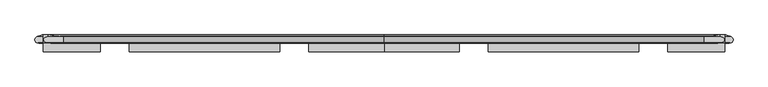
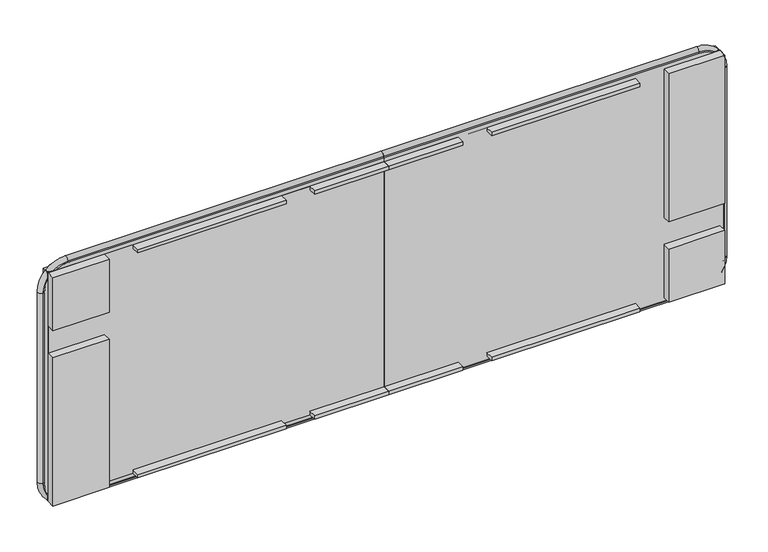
"""IFC4 building model written with IfcOpenShell, lengths in millimetres: proxy geometry, CAMBRIDGE^TABLE 4_54144 2 PC-PARTS SOLID."""

from ifc_helpers import new_model, si_unit, point, frame, origin, place, context, project, spatial, polyline, circle_curve, ellipse_curve, trimmed, outline, extrude, source, transform, mapped, element, save
from ifc_brep_helpers import plane_surface, cylinder_surface, revolved_surface, advanced_brep


def generic_models_56c868ac(model_context):
    return source(origin(), model_context, "Body", "SolidModel", [
        extrude(outline(polyline([(1282.7, -12.7), (1282.7, -57.15), (495.3, -57.15), (495.3, -12.7), (1282.7, -12.7)])), frame((0.0, 0.0, -63.5), z_axis=(0.0, 0.0, 1.0), x_axis=(1.0, 0.0, 0.0)), (0.0, 0.0, 1.0), 19.05),
        extrude(outline(polyline([(44.45, -57.15), (44.45, -12.7), (342.9, -12.7), (342.9, -57.15), (44.45, -57.15)])), frame((0.0, 0.0, -1327.15), z_axis=(0.0, 0.0, 1.0), x_axis=(1.0, 0.0, 0.0)), (0.0, 0.0, 1.0), 831.85),
        extrude(outline(polyline([(44.45, -12.7), (342.9, -12.7), (342.9, -57.15), (44.45, -57.15), (44.45, -12.7)])), frame((0.0, 0.0, -342.9), z_axis=(0.0, 0.0, 1.0), x_axis=(1.0, 0.0, 0.0)), (0.0, 0.0, 1.0), 298.45),
        extrude(outline(polyline([(1435.1, -57.15), (1435.1, -12.7), (1828.8, -12.7), (1828.8, -57.15), (1435.1, -57.15)])), frame((0.0, 0.0, -63.5), z_axis=(0.0, 0.0, 1.0), x_axis=(1.0, 0.0, 0.0)), (0.0, 0.0, 1.0), 19.05),
        extrude(outline(polyline([(1435.1, -57.15), (1435.1, -12.7), (1828.8, -12.7), (1828.8, -57.15), (1435.1, -57.15)])), frame((0.0, 0.0, -1327.15), z_axis=(0.0, 0.0, 1.0), x_axis=(1.0, 0.0, 0.0)), (0.0, 0.0, 1.0), 19.05),
        extrude(outline(polyline([(1282.7, -12.7), (1282.7, -57.15), (495.3, -57.15), (495.3, -12.7), (1282.7, -12.7)])), frame((0.0, 0.0, -1327.15), z_axis=(0.0, 0.0, 1.0), x_axis=(1.0, 0.0, 0.0)), (0.0, 0.0, 1.0), 19.05),
        advanced_brep(
        [(1828.8, -12.7, -22.9617613), (1828.8, -12.7, -1348.6382387), (3505.2, -12.7, -1348.6382387), (3634.6382387, -12.7, -1219.2), (3634.6382387, -12.7, -152.4), (3505.2, -12.7, -22.9617613), (1828.8, 31.75, -1333.7609266), (1828.8, 31.75, -37.8390734), (3579.4621688, 31.75, -37.8390734), (3619.7609266, 31.75, -78.1378312), (3619.7609266, 31.75, -1293.4621688), (3579.4621688, 31.75, -1333.7609266), (3505.2, 23.7557311, -1355.725), (1828.8, 23.7557311, -1355.725), (3641.725, 23.7557311, -1219.2), (3641.725, 22.1682311, -1219.2), (3505.2, 22.1682311, -1355.725), (3641.725, 23.7557311, -152.4), (3505.2, 23.7557311, -15.875), (3505.2, 22.1682311, -15.875), (3641.725, 22.1682311, -152.4), (1828.8, 23.7557311, -15.875), (1828.8, 22.1682311, -1355.725), (1828.8, -9.5412197, -1354.5910714), (3505.2, -9.5412197, -1354.5910714), (3640.5910714, -9.5412197, -152.4), (3505.2, -9.5412197, -17.0089286), (3640.5910714, -9.5412197, -1219.2), (1828.8, 22.1682311, -15.875), (1828.8, -9.5412197, -17.0089286)],
        [
            (0, 1),
            (1, 2),
            (2, 3, circle_curve(frame((3505.2, -12.7, -1219.2), z_axis=(0.0, -1.0, 0.0), x_axis=(0.0, 0.0, -1.0)), 129.4382387)),
            (3, 4),
            (4, 5, circle_curve(frame((3505.2, -12.7, -152.4), z_axis=(0.0, -1.0, 0.0), x_axis=(1.0, 0.0, 0.0)), 129.4382387)),
            (5, 0),
            (6, 7),
            (7, 8),
            (8, 9, circle_curve(frame((3505.2, 31.75, -152.4), z_axis=(0.0, 1.0, 0.0), x_axis=(0.0, 0.0, -1.0)), 136.525)),
            (9, 10),
            (10, 11, circle_curve(frame((3505.2, 31.75, -1219.2), z_axis=(0.0, 1.0, 0.0), x_axis=(-1.0, 0.0, 0.0)), 136.525)),
            (11, 6),
            (11, 12, ellipse_curve(frame((3505.2, 73.4467673, -1219.2), z_axis=(0.0, 0.9396926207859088, -0.3420201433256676), x_axis=(0.0, -0.3420201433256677, -0.9396926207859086)), 145.2868704, 136.525)),
            (12, 13),
            (13, 6),
            (10, 14, ellipse_curve(frame((3505.2, 73.4467673, -1219.2), z_axis=(-0.3420201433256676, -0.9396926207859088, 0.0), x_axis=(0.9396926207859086, -0.3420201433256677, 0.0)), 145.2868704, 136.525)),
            (14, 15),
            (15, 16, circle_curve(frame((3505.2, 22.1682311, -1219.2), z_axis=(0.0, 1.0, 0.0), x_axis=(-1.0, 0.0, 0.0)), 136.525)),
            (16, 12),
            (9, 17, ellipse_curve(frame((3505.2, 73.4467673, -152.4), z_axis=(0.3420201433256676, 0.9396926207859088, 0.0), x_axis=(0.9396926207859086, -0.3420201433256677, 0.0)), 145.2868704, 136.525)),
            (17, 14),
            (8, 18, ellipse_curve(frame((3505.2, 73.4467673, -152.4), z_axis=(0.0, -0.9396926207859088, -0.3420201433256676), x_axis=(0.0, -0.3420201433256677, 0.9396926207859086)), 145.2868704, 136.525)),
            (18, 19),
            (19, 20, circle_curve(frame((3505.2, 22.1682311, -152.4), z_axis=(0.0, 1.0, 0.0), x_axis=(0.0, 0.0, -1.0)), 136.525)),
            (20, 17),
            (7, 21),
            (21, 18),
            (22, 13),
            (16, 22),
            (23, 22, circle_curve(frame((1828.8, 6.2932311, -1355.725), z_axis=(1.0, 0.0, 0.0), x_axis=(0.0, -1.0, 0.0)), 15.875)),
            (16, 24, circle_curve(frame((3505.2, 6.2932311, -1355.725), z_axis=(-1.0, 0.0, 0.0), x_axis=(0.0, -1.0, 0.0)), 15.875)),
            (24, 23),
            (1, 23, circle_curve(frame((1828.8, -15.875, -1354.1375), z_axis=(-1.0, 0.0, 0.0), x_axis=(0.0, 0.4999999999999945, 0.8660254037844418)), 6.35)),
            (24, 2, circle_curve(frame((3505.2, -15.875, -1354.1375), z_axis=(1.0, 0.0, 0.0), x_axis=(0.0, 0.4999999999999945, 0.8660254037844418)), 6.35)),
            (25, 20, circle_curve(frame((3641.725, 6.2932311, -152.4), z_axis=(0.0, 0.0, 1.0), x_axis=(1.0, 0.0, 0.0)), 15.875)),
            (19, 26, circle_curve(frame((3505.2, 6.2932311, -15.875), z_axis=(1.0, 0.0, 0.0), x_axis=(0.0, 0.0, 1.0)), 15.875)),
            (26, 25, circle_curve(frame((3505.2, -9.5412197, -152.4), z_axis=(0.0, 1.0, 0.0), x_axis=(1.0, 0.0, 0.0)), 135.3910714)),
            (27, 15, circle_curve(frame((3641.725, 6.2932311, -1219.2), z_axis=(0.0, 0.0, 1.0), x_axis=(0.0, -1.0, 0.0)), 15.875)),
            (15, 20),
            (25, 27),
            (27, 24, circle_curve(frame((3505.2, -9.5412197, -1219.2), z_axis=(0.0, 1.0, 0.0), x_axis=(0.0, 0.0, -1.0)), 135.3910714)),
            (28, 29, circle_curve(frame((1828.8, 6.2932311, -15.875), z_axis=(1.0, 0.0, 0.0), x_axis=(0.0, -1.0, 0.0)), 15.875)),
            (29, 26),
            (19, 28),
            (21, 28),
            (4, 25, circle_curve(frame((3640.1375, -15.875, -152.4), z_axis=(0.0, 0.0, -1.0), x_axis=(1.0, 0.0, 0.0)), 6.35)),
            (26, 5, circle_curve(frame((3505.2, -15.875, -17.4625), z_axis=(-1.0, 0.0, 0.0), x_axis=(0.0, 0.0, 1.0)), 6.35)),
            (3, 27, circle_curve(frame((3640.1375, -15.875, -1219.2), z_axis=(0.0, 0.0, -1.0), x_axis=(-0.8660254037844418, 0.4999999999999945, 0.0)), 6.35)),
            (29, 0, circle_curve(frame((1828.8, -15.875, -17.4625), z_axis=(-1.0, 0.0, 0.0), x_axis=(0.0, 0.4999999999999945, -0.8660254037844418)), 6.35)),
        ],
        [
            plane_surface(frame((2743.2, -12.7, -685.8), z_axis=(0.0, -1.0, 0.0), x_axis=(0.0, 0.0, 1.0))),
            plane_surface(frame((2743.2, 31.75, -685.8), z_axis=(0.0, 1.0, 0.0), x_axis=(0.0, 0.0, 1.0))),
            plane_surface(frame((152.4, 29.1686338, -1340.8531721), z_axis=(0.0, 0.9396926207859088, -0.3420201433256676), x_axis=(0.0, -0.3420201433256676, -0.9396926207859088))),
            cylinder_surface(frame((3505.2, 22.9619811, -1219.2), z_axis=(0.0, -1.0, 0.0), x_axis=(-1.0, 0.0, 0.0)), 136.525),
            plane_surface(frame((3626.8531721, 29.1686338, -1219.2), z_axis=(0.3420201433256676, 0.9396926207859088, 0.0), x_axis=(0.9396926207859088, -0.3420201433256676, 0.0))),
            cylinder_surface(frame((3505.2, 22.9619811, -152.4), z_axis=(0.0, -1.0, 0.0), x_axis=(0.0, 0.0, -1.0)), 136.525),
            plane_surface(frame((1828.8, 29.1686338, -30.7468279), z_axis=(0.0, 0.9396926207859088, 0.3420201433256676), x_axis=(0.0, -0.3420201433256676, 0.9396926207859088))),
            plane_surface(frame((152.4, 23.7557311, -1355.725), z_axis=(0.0, 0.0, -1.0), x_axis=(0.0, -1.0, 0.0))),
            cylinder_surface(frame((152.4, 6.2932311, -1355.725), z_axis=(1.0, 0.0, 0.0), x_axis=(0.0, -1.0, 0.0)), 15.875),
            revolved_surface(polyline([(3505.2, -12.700000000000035, -1348.6382386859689), (1828.8, -12.700000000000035, -1348.6382386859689)]), (152.4, -15.875, -1354.1375), (1.0, 0.0, 0.0)),
            revolved_surface(trimmed(ellipse_curve(frame((3641.725, 6.2932311, -152.4), z_axis=(0.0, 0.0, -1.0), x_axis=(1.0, 0.0, 0.0)), 15.875, 15.875), [point((3641.725, 22.1682311, -152.4))], [point((3640.5910714, -9.5412197, -152.4))], True, "CARTESIAN"), (3505.2, 6.2932311, -152.4), (0.0, -1.0, 0.0)),
            cylinder_surface(frame((3641.725, 6.2932311, -1219.2), z_axis=(0.0, 0.0, 1.0), x_axis=(0.0, -1.0, 0.0)), 15.875),
            plane_surface(frame((3641.725, 23.7557311, -1219.2), z_axis=(1.0, 0.0, 0.0), x_axis=(0.0, -1.0, 0.0))),
            revolved_surface(trimmed(ellipse_curve(frame((3505.2, 6.2932311, -1355.725), z_axis=(-1.0, 0.0, 0.0), x_axis=(0.0, 0.0, -1.0)), 15.875, 15.875), [point((3505.2, 22.1682311, -1355.725))], [point((3505.2, -9.5412197, -1354.5910714))], True, "CARTESIAN"), (3505.2, 6.2932311, -1219.2), (0.0, -1.0, 0.0)),
            cylinder_surface(frame((1828.8, 6.2932311, -15.875), z_axis=(-1.0, 0.0, 0.0), x_axis=(0.0, -1.0, 0.0)), 15.875),
            plane_surface(frame((1828.8, 23.7557311, -15.875), z_axis=(0.0, 0.0, 1.0), x_axis=(0.0, -1.0, 0.0))),
            revolved_surface(trimmed(ellipse_curve(frame((3640.1375, -15.875, -152.4), z_axis=(0.0, 0.0, 1.0), x_axis=(1.0, 0.0, 0.0)), 6.35, 6.35), [point((3640.5910714, -9.5412197, -152.4))], [point((3634.6382387, -12.7, -152.4))], True, "CARTESIAN"), (3505.2, -15.875, -152.4), (0.0, -1.0, 0.0)),
            revolved_surface(polyline([(3634.6382386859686, -12.700000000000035, -152.4000000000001), (3634.6382386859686, -12.700000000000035, -1219.2)]), (3640.1375, -15.875, -1219.2), (0.0, 0.0, 1.0)),
            revolved_surface(trimmed(ellipse_curve(frame((3505.2, -15.875, -1354.1375), z_axis=(1.0, 0.0, 0.0), x_axis=(0.0, 0.0, -1.0)), 6.35, 6.35), [point((3505.2, -9.5412197, -1354.5910714))], [point((3505.2, -12.7, -1348.6382387))], True, "CARTESIAN"), (3505.2, -15.875, -1219.2), (0.0, -1.0, 0.0)),
            revolved_surface(polyline([(1828.8, -12.700000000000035, -22.961761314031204), (3505.2, -12.700000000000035, -22.961761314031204)]), (1828.8, -15.875, -17.4625), (-1.0, 0.0, 0.0)),
            plane_surface(frame((1828.8, 0.0, -44.45), z_axis=(-1.0, 0.0, 0.0), x_axis=(0.0, 0.0, 1.0))),
        ],
        [
            (0, [[1, 2, 3, 4, 5, 6]]),
            (1, [[7, 8, 9, 10, 11, 12]]),
            (2, [[13, 14, 15, -12]]),
            (3, [[-13, -11, 16, 17, 18, 19]]),
            (4, [[-16, -10, 20, 21]]),
            (5, [[-20, -9, 22, 23, 24, 25]]),
            (6, [[-22, -8, 26, 27]]),
            (7, [[28, -14, -19, 29]]),
            (8, [[30, -29, 31, 32]]),
            (9, [[33, -32, 34, -2]]),
            (10, [[35, -24, 36, 37]]),
            (11, [[38, 39, -35, 40]]),
            (12, [[-17, -21, -25, -39]]),
            (13, [[-31, -18, -38, 41]]),
            (14, [[42, 43, -36, 44]]),
            (15, [[45, -44, -23, -27]]),
            (16, [[46, -37, 47, -5]]),
            (17, [[48, -40, -46, -4]]),
            (18, [[-34, -41, -48, -3]]),
            (19, [[49, -6, -47, -43]]),
            (20, [[-26, -7, -15, -28, -30, -33, -1, -49, -42, -45]]),
        ],
    ),
        extrude(outline(polyline([(2222.5, -12.7), (2222.5, -57.15), (1828.8, -57.15), (1828.8, -12.7), (2222.5, -12.7)])), frame((0.0, 0.0, -1327.15), z_axis=(0.0, 0.0, 1.0), x_axis=(1.0, 0.0, 0.0)), (0.0, 0.0, 1.0), 19.05),
        extrude(outline(polyline([(3314.7, -12.7), (3613.15, -12.7), (3613.15, -57.15), (3314.7, -57.15), (3314.7, -12.7)])), frame((0.0, 0.0, -876.3), z_axis=(0.0, 0.0, 1.0), x_axis=(1.0, 0.0, 0.0)), (0.0, 0.0, 1.0), 831.85),
        extrude(outline(polyline([(3613.15, -57.15), (3314.7, -57.15), (3314.7, -12.7), (3613.15, -12.7), (3613.15, -57.15)])), frame((0.0, 0.0, -1327.15), z_axis=(0.0, 0.0, 1.0), x_axis=(1.0, 0.0, 0.0)), (0.0, 0.0, 1.0), 298.45),
        extrude(outline(polyline([(2222.5, -12.7), (2222.5, -57.15), (1828.8, -57.15), (1828.8, -12.7), (2222.5, -12.7)])), frame((0.0, 0.0, -63.5), z_axis=(0.0, 0.0, 1.0), x_axis=(1.0, 0.0, 0.0)), (0.0, 0.0, 1.0), 19.05),
        extrude(outline(polyline([(2374.9, -57.15), (2374.9, -12.7), (3162.3, -12.7), (3162.3, -57.15), (2374.9, -57.15)])), frame((0.0, 0.0, -63.5), z_axis=(0.0, 0.0, 1.0), x_axis=(1.0, 0.0, 0.0)), (0.0, 0.0, 1.0), 19.05),
        extrude(outline(polyline([(2374.9, -57.15), (2374.9, -12.7), (3162.3, -12.7), (3162.3, -57.15), (2374.9, -57.15)])), frame((0.0, 0.0, -1327.15), z_axis=(0.0, 0.0, 1.0), x_axis=(1.0, 0.0, 0.0)), (0.0, 0.0, 1.0), 19.05),
        extrude(outline(polyline([(44.45, -12.7), (44.45, 0.0), (1828.8, 0.0), (1828.8, -12.7), (44.45, -12.7)])), frame((0.0, 0.0, -1327.15), z_axis=(0.0, 0.0, 1.0), x_axis=(1.0, 0.0, 0.0)), (0.0, 0.0, 1.0), 1282.7),
        advanced_brep(
        [(1828.8, -12.7, -1348.6382387), (1828.8, -12.7, -22.9617613), (152.4, -12.7, -22.9617613), (22.9617613, -12.7, -152.4), (22.9617613, -12.7, -1219.2), (152.4, -12.7, -1348.6382387), (1828.8, 31.75, -37.8390734), (1828.8, 31.75, -1333.7609266), (78.1378312, 31.75, -1333.7609266), (37.8390734, 31.75, -1293.4621688), (37.8390734, 31.75, -78.1378312), (78.1378312, 31.75, -37.8390734), (152.4, 23.7557311, -15.875), (1828.8, 23.7557311, -15.875), (15.875, 23.7557311, -152.4), (15.875, 22.1682311, -152.4), (152.4, 22.1682311, -15.875), (15.875, 23.7557311, -1219.2), (152.4, 23.7557311, -1355.725), (152.4, 22.1682311, -1355.725), (15.875, 22.1682311, -1219.2), (1828.8, 23.7557311, -1355.725), (1828.8, 22.1682311, -15.875), (1828.8, -9.5412197, -17.0089286), (152.4, -9.5412197, -17.0089286), (1828.8, 22.1682311, -1355.725), (1828.8, -9.5412197, -1354.5910714), (152.4, -9.5412197, -1354.5910714), (17.0089286, -9.5412197, -1219.2), (17.0089286, -9.5412197, -152.4)],
        [
            (0, 1),
            (1, 2),
            (2, 3, circle_curve(frame((152.4, -12.7, -152.4), z_axis=(0.0, -1.0, 0.0), x_axis=(0.0, 0.0, 1.0)), 129.4382387)),
            (3, 4),
            (4, 5, circle_curve(frame((152.4, -12.7, -1219.2), z_axis=(0.0, -1.0, 0.0), x_axis=(-1.0, 0.0, 0.0)), 129.4382387)),
            (5, 0),
            (6, 7),
            (7, 8),
            (8, 9, circle_curve(frame((152.4, 31.75, -1219.2), z_axis=(0.0, 1.0, 0.0), x_axis=(0.0, 0.0, 1.0)), 136.525)),
            (9, 10),
            (10, 11, circle_curve(frame((152.4, 31.75, -152.4), z_axis=(0.0, 1.0, 0.0), x_axis=(1.0, 0.0, 0.0)), 136.525)),
            (11, 6),
            (11, 12, ellipse_curve(frame((152.4, 73.4467673, -152.4), z_axis=(0.0, 0.9396926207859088, 0.3420201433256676), x_axis=(0.0, -0.3420201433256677, 0.9396926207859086)), 145.2868704, 136.525)),
            (12, 13),
            (13, 6),
            (10, 14, ellipse_curve(frame((152.4, 73.4467673, -152.4), z_axis=(0.3420201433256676, -0.9396926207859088, 0.0), x_axis=(-0.9396926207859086, -0.3420201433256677, 0.0)), 145.2868704, 136.525)),
            (14, 15),
            (15, 16, circle_curve(frame((152.4, 22.1682311, -152.4), z_axis=(0.0, 1.0, 0.0), x_axis=(1.0, 0.0, 0.0)), 136.525)),
            (16, 12),
            (9, 17, ellipse_curve(frame((152.4, 73.4467673, -1219.2), z_axis=(-0.3420201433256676, 0.9396926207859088, 0.0), x_axis=(-0.9396926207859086, -0.3420201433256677, 0.0)), 145.2868704, 136.525)),
            (17, 14),
            (8, 18, ellipse_curve(frame((152.4, 73.4467673, -1219.2), z_axis=(0.0, -0.9396926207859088, 0.3420201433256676), x_axis=(0.0, -0.3420201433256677, -0.9396926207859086)), 145.2868704, 136.525)),
            (18, 19),
            (19, 20, circle_curve(frame((152.4, 22.1682311, -1219.2), z_axis=(0.0, 1.0, 0.0), x_axis=(0.0, 0.0, 1.0)), 136.525)),
            (20, 17),
            (7, 21),
            (21, 18),
            (22, 13),
            (16, 22),
            (23, 22, circle_curve(frame((1828.8, 6.2932311, -15.875), z_axis=(-1.0, 0.0, 0.0), x_axis=(0.0, -1.0, 0.0)), 15.875)),
            (16, 24, circle_curve(frame((152.4, 6.2932311, -15.875), z_axis=(1.0, 0.0, 0.0), x_axis=(0.0, -1.0, 0.0)), 15.875)),
            (24, 23),
            (1, 23, circle_curve(frame((1828.8, -15.875, -17.4625), z_axis=(1.0, 0.0, 0.0), x_axis=(0.0, 0.4999999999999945, -0.8660254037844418)), 6.35)),
            (24, 2, circle_curve(frame((152.4, -15.875, -17.4625), z_axis=(-1.0, 0.0, 0.0), x_axis=(0.0, 0.4999999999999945, -0.8660254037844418)), 6.35)),
            (25, 26, circle_curve(frame((1828.8, 6.2932311, -1355.725), z_axis=(-1.0, 0.0, 0.0), x_axis=(0.0, -1.0, 0.0)), 15.875)),
            (26, 27),
            (27, 19, circle_curve(frame((152.4, 6.2932311, -1355.725), z_axis=(1.0, 0.0, 0.0), x_axis=(0.0, -1.0, 0.0)), 15.875)),
            (19, 25),
            (21, 25),
            (28, 20, circle_curve(frame((15.875, 6.2932311, -1219.2), z_axis=(0.0, 0.0, -1.0), x_axis=(-1.0, 0.0, 0.0)), 15.875)),
            (27, 28, circle_curve(frame((152.4, -9.5412197, -1219.2), z_axis=(0.0, 1.0, 0.0), x_axis=(-1.0, 0.0, 0.0)), 135.3910714)),
            (29, 15, circle_curve(frame((15.875, 6.2932311, -152.4), z_axis=(0.0, 0.0, -1.0), x_axis=(0.0, -1.0, 0.0)), 15.875)),
            (15, 20),
            (28, 29),
            (29, 24, circle_curve(frame((152.4, -9.5412197, -152.4), z_axis=(0.0, 1.0, 0.0), x_axis=(0.0, 0.0, 1.0)), 135.3910714)),
            (26, 0, circle_curve(frame((1828.8, -15.875, -1354.1375), z_axis=(1.0, 0.0, 0.0), x_axis=(0.0, 0.4999999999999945, 0.8660254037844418)), 6.35)),
            (5, 27, circle_curve(frame((152.4, -15.875, -1354.1375), z_axis=(-1.0, 0.0, 0.0), x_axis=(0.0, 0.4999999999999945, 0.8660254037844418)), 6.35)),
            (4, 28, circle_curve(frame((17.4625, -15.875, -1219.2), z_axis=(0.0, 0.0, 1.0), x_axis=(-1.0, 0.0, 0.0)), 6.35)),
            (3, 29, circle_curve(frame((17.4625, -15.875, -152.4), z_axis=(0.0, 0.0, 1.0), x_axis=(0.8660254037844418, 0.4999999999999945, 0.0)), 6.35)),
        ],
        [
            plane_surface(frame((914.4, -12.7, -685.8), z_axis=(0.0, -1.0, 0.0), x_axis=(0.0, 0.0, 1.0))),
            plane_surface(frame((914.4, 31.75, -685.8), z_axis=(0.0, 1.0, 0.0), x_axis=(0.0, 0.0, 1.0))),
            plane_surface(frame((1828.8, 29.1686338, -30.7468279), z_axis=(0.0, 0.9396926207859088, 0.3420201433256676), x_axis=(0.0, -0.3420201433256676, 0.9396926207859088))),
            cylinder_surface(frame((152.4, 22.9619811, -152.4), z_axis=(0.0, -1.0, 0.0), x_axis=(1.0, 0.0, 0.0)), 136.525),
            plane_surface(frame((30.7468279, 29.1686338, -152.4), z_axis=(-0.3420201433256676, 0.9396926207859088, 0.0), x_axis=(-0.9396926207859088, -0.3420201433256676, 0.0))),
            cylinder_surface(frame((152.4, 22.9619811, -1219.2), z_axis=(0.0, -1.0, 0.0), x_axis=(0.0, 0.0, 1.0)), 136.525),
            plane_surface(frame((152.4, 29.1686338, -1340.8531721), z_axis=(0.0, 0.9396926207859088, -0.3420201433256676), x_axis=(0.0, -0.3420201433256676, -0.9396926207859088))),
            plane_surface(frame((1828.8, 23.7557311, -15.875), z_axis=(0.0, 0.0, 1.0), x_axis=(0.0, -1.0, 0.0))),
            cylinder_surface(frame((1828.8, 6.2932311, -15.875), z_axis=(-1.0, 0.0, 0.0), x_axis=(0.0, -1.0, 0.0)), 15.875),
            revolved_surface(polyline([(152.4000000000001, -12.700000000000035, -22.961761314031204), (1828.8, -12.700000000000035, -22.961761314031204)]), (1828.8, -15.875, -17.4625), (-1.0, 0.0, 0.0)),
            cylinder_surface(frame((152.4, 6.2932311, -1355.725), z_axis=(1.0, 0.0, 0.0), x_axis=(0.0, -1.0, 0.0)), 15.875),
            plane_surface(frame((152.4, 23.7557311, -1355.725), z_axis=(0.0, 0.0, -1.0), x_axis=(0.0, -1.0, 0.0))),
            revolved_surface(trimmed(ellipse_curve(frame((15.875, 6.2932311, -1219.2), z_axis=(0.0, 0.0, 1.0), x_axis=(-1.0, 0.0, 0.0)), 15.875, 15.875), [point((15.875, 22.1682311, -1219.2))], [point((17.0089286, -9.5412197, -1219.2))], True, "CARTESIAN"), (152.4, 6.2932311, -1219.2), (0.0, -1.0, 0.0)),
            cylinder_surface(frame((15.875, 6.2932311, -152.4), z_axis=(0.0, 0.0, -1.0), x_axis=(0.0, -1.0, 0.0)), 15.875),
            plane_surface(frame((15.875, 23.7557311, -152.4), z_axis=(-1.0, 0.0, 0.0), x_axis=(0.0, -1.0, 0.0))),
            revolved_surface(trimmed(ellipse_curve(frame((152.4, 6.2932311, -15.875), z_axis=(1.0, 0.0, 0.0), x_axis=(0.0, 0.0, 1.0)), 15.875, 15.875), [point((152.4, 22.1682311, -15.875))], [point((152.4, -9.5412197, -17.0089286))], True, "CARTESIAN"), (152.4, 6.2932311, -152.4), (0.0, -1.0, 0.0)),
            revolved_surface(polyline([(1828.8, -12.700000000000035, -1348.6382386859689), (152.4, -12.700000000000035, -1348.6382386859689)]), (152.4, -15.875, -1354.1375), (1.0, 0.0, 0.0)),
            revolved_surface(trimmed(ellipse_curve(frame((17.4625, -15.875, -1219.2), z_axis=(0.0, 0.0, -1.0), x_axis=(-1.0, 0.0, 0.0)), 6.35, 6.35), [point((17.0089286, -9.5412197, -1219.2))], [point((22.9617613, -12.7, -1219.2))], True, "CARTESIAN"), (152.4, -15.875, -1219.2), (0.0, -1.0, 0.0)),
            revolved_surface(polyline([(22.961761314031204, -12.700000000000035, -1219.2), (22.961761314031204, -12.700000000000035, -152.4)]), (17.4625, -15.875, -152.4), (0.0, 0.0, -1.0)),
            revolved_surface(trimmed(ellipse_curve(frame((152.4, -15.875, -17.4625), z_axis=(-1.0, 0.0, 0.0), x_axis=(0.0, 0.0, 1.0)), 6.35, 6.35), [point((152.4, -9.5412197, -17.0089286))], [point((152.4, -12.7, -22.9617613))], True, "CARTESIAN"), (152.4, -15.875, -152.4), (0.0, -1.0, 0.0)),
            plane_surface(frame((1828.8, 0.0, -1327.15), z_axis=(1.0, 0.0, 0.0), x_axis=(0.0, 0.0, -1.0))),
        ],
        [
            (0, [[1, 2, 3, 4, 5, 6]]),
            (1, [[7, 8, 9, 10, 11, 12]]),
            (2, [[13, 14, 15, -12]]),
            (3, [[-13, -11, 16, 17, 18, 19]]),
            (4, [[-16, -10, 20, 21]]),
            (5, [[-20, -9, 22, 23, 24, 25]]),
            (6, [[-22, -8, 26, 27]]),
            (7, [[28, -14, -19, 29]]),
            (8, [[30, -29, 31, 32]]),
            (9, [[33, -32, 34, -2]]),
            (10, [[35, 36, 37, 38]]),
            (11, [[39, -38, -23, -27]]),
            (12, [[40, -24, -37, 41]]),
            (13, [[42, 43, -40, 44]]),
            (14, [[-17, -21, -25, -43]]),
            (15, [[-31, -18, -42, 45]]),
            (16, [[46, -6, 47, -36]]),
            (17, [[48, -41, -47, -5]]),
            (18, [[49, -44, -48, -4]]),
            (19, [[-34, -45, -49, -3]]),
            (20, [[-26, -7, -15, -28, -30, -33, -1, -46, -35, -39]]),
        ],
    ),
        extrude(outline(polyline([(3613.15, -12.7), (1828.8, -12.7), (1828.8, 0.0), (3613.15, 0.0), (3613.15, -12.7)])), frame((0.0, 0.0, -1327.15), z_axis=(0.0, 0.0, 1.0), x_axis=(1.0, 0.0, 0.0)), (0.0, 0.0, 1.0), 1282.7),
        extrude(outline(polyline([(44.45, 31.75), (1828.8, 31.75), (1828.8, 0.0), (44.45, 0.0), (44.45, 31.75)])), frame((0.0, 0.0, -1327.15), z_axis=(0.0, 0.0, 1.0), x_axis=(1.0, 0.0, 0.0)), (0.0, 0.0, 1.0), 1282.7),
        extrude(outline(polyline([(3613.15, 31.75), (3613.15, 0.0), (1828.8, 0.0), (1828.8, 31.75), (3613.15, 31.75)])), frame((0.0, 0.0, -1327.15), z_axis=(0.0, 0.0, 1.0), x_axis=(1.0, 0.0, 0.0)), (0.0, 0.0, 1.0), 1282.7),
    ])


if __name__ == "__main__":
    model = new_model("IFC4")
    model_context = context("Model", 3, world=origin())
    ifc_project = project(units=[si_unit("LENGTHUNIT", "METRE", prefix="MILLI")], contexts=[model_context])
    site = spatial("IfcSite", under=ifc_project)
    building = spatial("IfcBuilding", under=site)
    placement = place(None, origin())
    generic_models_shape = generic_models_56c868ac(model_context)
    element("IfcBuildingElementProxy", 1, Name="CAMBRIDGE^TABLE 4_54144 2 PC-PARTS SOLID", ObjectType="CAMBRIDGE^TABLE 4_54144 2 PC-PARTS SOLID", at=placement, inside=building, context=model_context, shape_type="MappedRepresentation", body=[
        mapped(generic_models_shape, transform((0.0, 0.0, 0.0), x_axis=(1.0, 0.0, 0.0), y_axis=(0.0, 1.0, 0.0), z_axis=(0.0, 0.0, 1.0))),
    ])
    save(model, "model.ifc")
